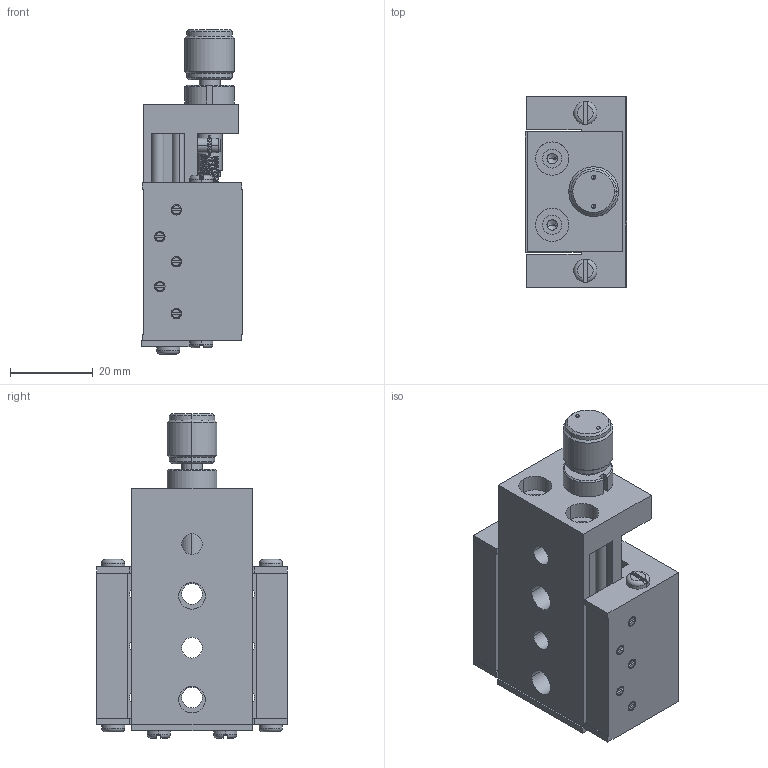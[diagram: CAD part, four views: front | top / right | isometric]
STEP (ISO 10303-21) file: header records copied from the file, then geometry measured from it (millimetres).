
FILE_DESCRIPTION((''),'2;1');
FILE_NAME('860-0010_SW0001','2014-08-01T',('Julija'),(''),'PRO/ENGINEER BY PARAMETRIC TECHNOLOGY CORPORATION, 2014090','PRO/ENGINEER BY PARAMETRIC TECHNOLOGY CORPORATION, 2014090','');
FILE_SCHEMA(('CONFIG_CONTROL_DESIGN'));
Length unit declared in the file: inch
Products named in the file (1): 860-0010_SW0001
Bounding box: 24.5 x 46 x 78.2 mm (x, y, z)
Volume: 39542.8 mm3; surface area: 21709.5 mm2
Topology: 1 solids, 1 shells, 363 faces, 979 edges, 615 vertices
Faces by surface type: plane 166, cylinder 104, cone 58, torus 19, bspline 10, revolution 4, extrusion 2
Entity records: 23167 total; most frequent: CARTESIAN_POINT 13973, ORIENTED_EDGE 1938, DIRECTION 1886, EDGE_CURVE 969, AXIS2_PLACEMENT_3D 721, VERTEX_POINT 615, VECTOR 440, LINE 438
